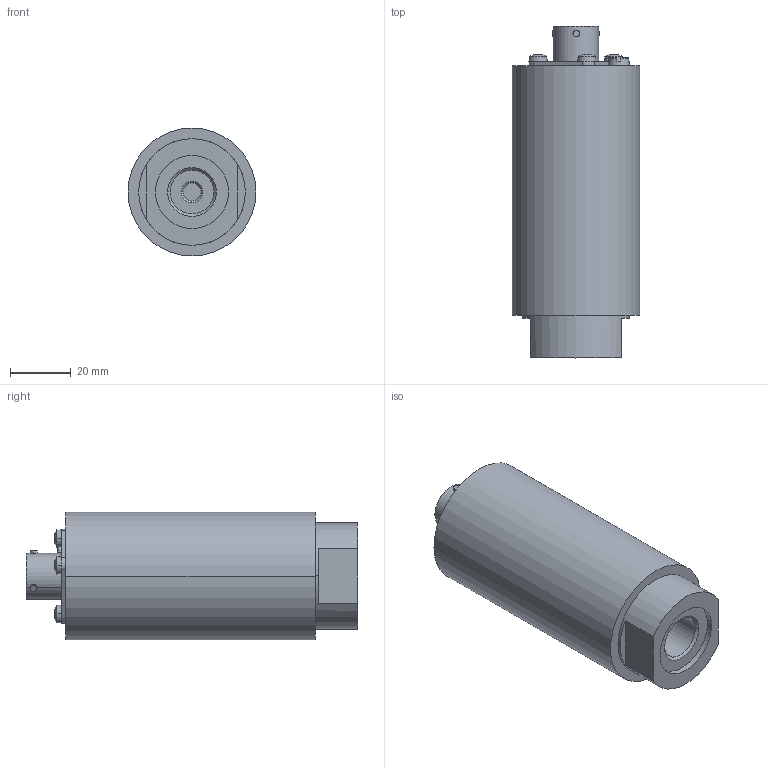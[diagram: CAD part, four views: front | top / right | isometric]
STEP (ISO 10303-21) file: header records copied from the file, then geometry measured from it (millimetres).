
FILE_DESCRIPTION(('STEP AP214'),'1');
FILE_NAME('burster_8201-5010-n021a_c83j2592sjm9ntpak8ojm2kap.stp','2017-04-19T16:11:40',('TraceParts'),('TraceParts S.A.'),'Spatial InterOp 3D',' ',' ');
FILE_SCHEMA(('automotive_design'));
Length unit declared in the file: millimetre
Products named in the file (1): burster_8201-5010-n021a_c83j2592sjm9ntpak8ojm2kap
Bounding box: 42 x 109.02 x 42 mm (x, y, z)
Volume: 119422 mm3; surface area: 34703.6 mm2
Topology: 1 solids, 18 shells, 312 faces, 715 edges, 453 vertices
Faces by surface type: cylinder 128, plane 112, cone 46, torus 18, sphere 8
Entity records: 11811 total; most frequent: CARTESIAN_POINT 2000, DIRECTION 1661, ORIENTED_EDGE 1422, EDGE_CURVE 711, AXIS2_PLACEMENT_3D 686, VERTEX_POINT 453, CIRCLE 373, EDGE_LOOP 350
